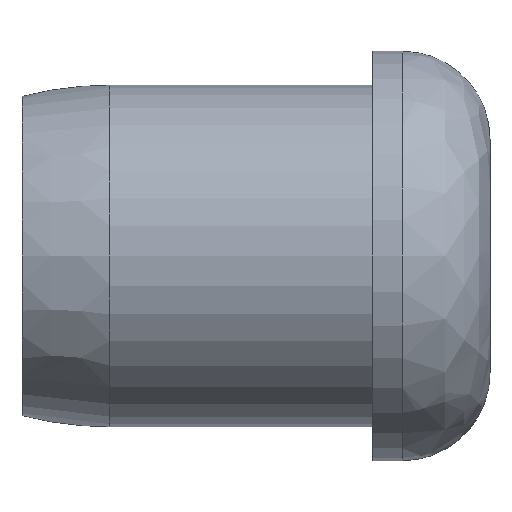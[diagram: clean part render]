
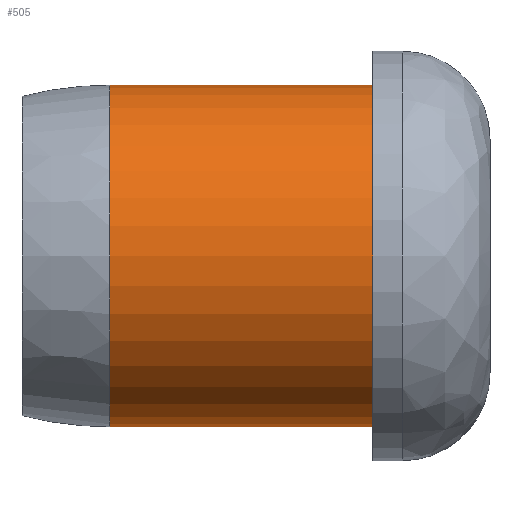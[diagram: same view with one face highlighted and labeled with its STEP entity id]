
A CAD part, front view. The second image highlights one B-rep face of the part: STEP entity #505.
In plain terms, the highlighted cylindrical face has radius 9.271 mm (diameter 18.542 mm), a partial arc.
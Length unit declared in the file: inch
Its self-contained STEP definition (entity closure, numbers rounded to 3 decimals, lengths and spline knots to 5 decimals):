
#9 = CIRCLE ( 'NONE', #157, 0.365 ) ;
#19 = CARTESIAN_POINT ( 'NONE',  ( -0.8125, 0., 0.365 ) ) ;
#20 = FACE_OUTER_BOUND ( 'NONE', #517, .T. ) ;
#57 = AXIS2_PLACEMENT_3D ( 'NONE', #148, #429, #254 ) ;
#75 = VERTEX_POINT ( 'NONE', #324 ) ;
#79 = ORIENTED_EDGE ( 'NONE', *, *, #85, .T. ) ;
#80 = CARTESIAN_POINT ( 'NONE',  ( -0.25, 0., -0.365 ) ) ;
#85 = EDGE_CURVE ( 'NONE', #75, #366, #297, .T. ) ;
#90 = ORIENTED_EDGE ( 'NONE', *, *, #362, .T. ) ;
#111 = ORIENTED_EDGE ( 'NONE', *, *, #205, .T. ) ;
#135 = DIRECTION ( 'NONE',  ( -1., 0., 0. ) ) ;
#148 = CARTESIAN_POINT ( 'NONE',  ( -0.8125, 0., 0. ) ) ;
#149 = VERTEX_POINT ( 'NONE', #80 ) ;
#157 = AXIS2_PLACEMENT_3D ( 'NONE', #374, #135, #414 ) ;
#184 = CARTESIAN_POINT ( 'NONE',  ( -1.75, 0., 0. ) ) ;
#205 = EDGE_CURVE ( 'NONE', #149, #75, #9, .T. ) ;
#223 = CARTESIAN_POINT ( 'NONE',  ( -1.75, 0., -0.365 ) ) ;
#239 = EDGE_CURVE ( 'NONE', #149, #417, #246, .T. ) ;
#241 = VECTOR ( 'NONE', #453, 39.37008 ) ;
#246 = LINE ( 'NONE', #223, #241 ) ;
#254 = DIRECTION ( 'NONE',  ( 0., 0., 1. ) ) ;
#286 = DIRECTION ( 'NONE',  ( -1., 0., 0. ) ) ;
#294 = CYLINDRICAL_SURFACE ( 'NONE', #466, 0.365 ) ;
#297 = LINE ( 'NONE', #382, #470 ) ;
#324 = CARTESIAN_POINT ( 'NONE',  ( -0.25, 0., 0.365 ) ) ;
#329 = CARTESIAN_POINT ( 'NONE',  ( -0.8125, 0., -0.365 ) ) ;
#332 = CIRCLE ( 'NONE', #57, 0.365 ) ;
#362 = EDGE_CURVE ( 'NONE', #366, #417, #332, .T. ) ;
#366 = VERTEX_POINT ( 'NONE', #19 ) ;
#374 = CARTESIAN_POINT ( 'NONE',  ( -0.25, 0., 0. ) ) ;
#382 = CARTESIAN_POINT ( 'NONE',  ( -1.75, 0., 0.365 ) ) ;
#414 = DIRECTION ( 'NONE',  ( 0., 0., 1. ) ) ;
#417 = VERTEX_POINT ( 'NONE', #329 ) ;
#421 = DIRECTION ( 'NONE',  ( -1., 0., 0. ) ) ;
#429 = DIRECTION ( 'NONE',  ( 1., 0., 0. ) ) ;
#453 = DIRECTION ( 'NONE',  ( -1., 0., 0. ) ) ;
#466 = AXIS2_PLACEMENT_3D ( 'NONE', #184, #421, #493 ) ;
#470 = VECTOR ( 'NONE', #286, 39.37008 ) ;
#493 = DIRECTION ( 'NONE',  ( 0., 0., 1. ) ) ;
#505 = ADVANCED_FACE ( 'NONE', ( #20 ), #294, .T. ) ;
#514 = ORIENTED_EDGE ( 'NONE', *, *, #239, .F. ) ;
#517 = EDGE_LOOP ( 'NONE', ( #514, #111, #79, #90 ) ) ;
